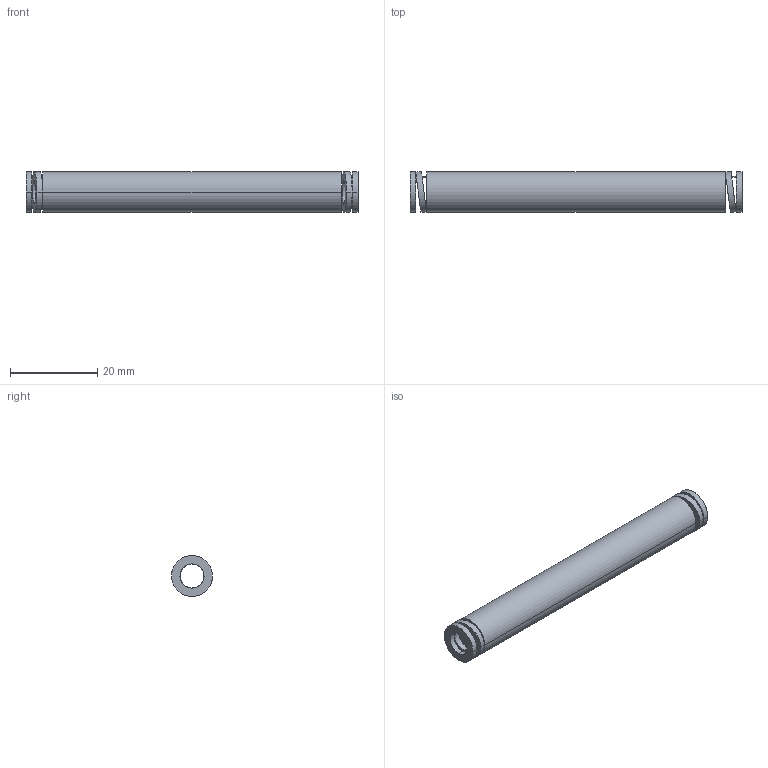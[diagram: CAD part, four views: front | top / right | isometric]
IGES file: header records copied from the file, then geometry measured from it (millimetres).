
Start section: START RECORD GO HERE.
Global section: file name: 392-B10-076.igs; native system: DASSAULT SYSTEMES CATIA V5 R20 - www.3ds.com; preprocessor: CATIA Version 5 Release 20 ; author: Utente; organization: NB04-ASUS; date: 20210812.145243; units: millimetre
Bounding box: 76 x 9.39 x 9.3 mm (x, y, z)
Surface area: 3861.8 mm2 (no closed solid volume)
Topology: 0 solids, 0 shells, 38 faces, 184 edges, 184 vertices
Faces by surface type: revolution 28, plane 10
